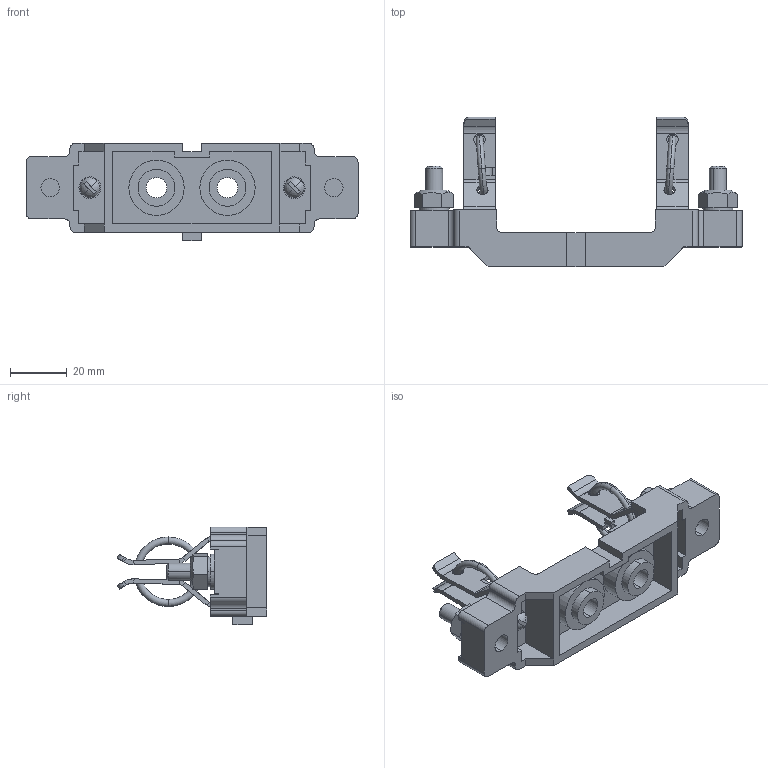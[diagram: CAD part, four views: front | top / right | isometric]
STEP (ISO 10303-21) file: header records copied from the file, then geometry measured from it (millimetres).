
FILE_DESCRIPTION (( 'STEP AP214' ), '1' );
FILE_NAME ('ﾎ魵瑙韃 ﾏﾏﾍ-00-ﾈ1-ﾓﾕﾋ3-ﾊﾝﾀ.STEP', '2023-05-26T05:32:35', ( '' ), ( '' ), 'SwSTEP 2.0', 'SolidWorks 2018', '' );
FILE_SCHEMA (( 'AUTOMOTIVE_DESIGN' ));
Length unit declared in the file: millimetre
Products named in the file (1): ﾎ魵瑙韃 ﾏﾏﾍ-00-ﾈ1-ﾓﾕﾋ3-ﾊﾝﾀ
Bounding box: 117 x 52.75 x 34.5 mm (x, y, z)
Volume: 32724.9 mm3; surface area: 24402 mm2
Topology: 1 solids, 15 shells, 561 faces, 1340 edges, 848 vertices
Faces by surface type: plane 305, cylinder 190, torus 30, cone 24, bspline 12
Entity records: 25839 total; most frequent: CARTESIAN_POINT 6796, ORIENTED_EDGE 2680, DIRECTION 2642, EDGE_CURVE 1340, AXIS2_PLACEMENT_3D 946, VERTEX_POINT 848, VECTOR 750, LINE 750
